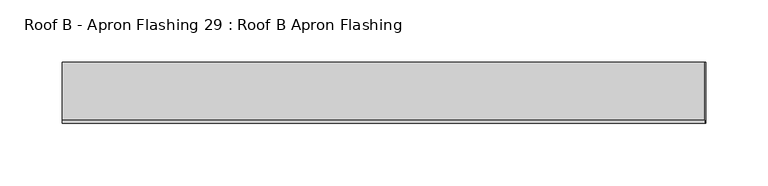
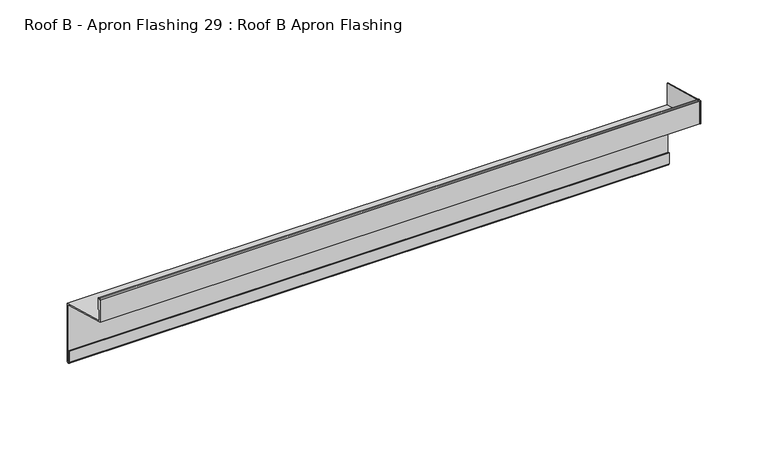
"""IFC4 building model written with IfcOpenShell, lengths in millimetres: proxy geometry, Roof B - Apron Flashing 29 : Roof B Apron Flashing."""

from ifc_helpers import new_model, si_unit, point, frame, frame_2d, origin, place, context, project, spatial, polyline, circle_curve, trimmed, segment, composite_curve, outline, extrude, source, transform, mapped, element, save


def roof_b_apron_flashing_29_roof_b_apron_flashing_f9d48720(model_context):
    return source(origin(), model_context, "Body", "SweptSolid", [
        extrude(outline(polyline([(-20660.2991572, -973.6339834), (-20660.2991572, -953.130654), (-20611.5455269, -966.1941499), (-20611.5455269, -986.6974792), (-20660.2991572, -973.6339834)])), frame((13194.5223206, 0.0, 0.0), z_axis=(1.0, 0.0, 0.0), x_axis=(0.0, 1.0, 0.0)), (0.0, 0.0, 1.0), 0.8428395),
        extrude(outline(composite_curve([segment(polyline([(-20611.5455269, -985.662203), (-20611.5455269, -1037.6563748)]), True, "CONTINUOUS"), segment(trimmed(circle_curve(frame_2d((-20613.0455269, -1037.6563748)), 1.5), [point((-20611.5455269, -1037.6563748))], [point((-20614.5455269, -1037.6563748))], False, "CARTESIAN"), True, "CONTINUOUS"), segment(polyline([(-20614.5455269, -1037.6563748), (-20614.5455269, -1027.6933761), (-20613.5455269, -1027.6933761), (-20613.5455269, -1037.6563748)]), True, "CONTINUOUS"), segment(trimmed(circle_curve(frame_2d((-20613.0455269, -1037.6563748)), 0.5), [point((-20613.5455269, -1037.6563748))], [point((-20612.5455269, -1037.6563748))], True, "CARTESIAN"), True, "CONTINUOUS"), segment(polyline([(-20612.5455269, -1037.6563748), (-20612.5455269, -986.42953), (-20660.2991572, -973.6339834), (-20660.2991572, -953.3538686)]), True, "CONTINUOUS"), segment(trimmed(circle_curve(frame_2d((-20659.0491572, -953.3538686)), 1.25), [point((-20660.2991572, -953.3538686))], [point((-20657.7991572, -953.3538686))], False, "CARTESIAN"), True, "CONTINUOUS"), segment(polyline([(-20657.7991572, -953.3538686), (-20657.7991572, -962.6360034)]), True, "CONTINUOUS"), segment(trimmed(circle_curve(frame_2d((-20658.2991572, -962.6360034)), 0.5), [point((-20657.7991572, -962.6360034))], [point((-20658.7991572, -962.6360034))], False, "CARTESIAN"), True, "CONTINUOUS"), segment(polyline([(-20658.7991572, -962.6360034), (-20658.7991572, -953.3538686)]), True, "CONTINUOUS"), segment(trimmed(circle_curve(frame_2d((-20659.0491572, -953.3538686)), 0.25), [point((-20658.7991572, -953.3538686))], [point((-20659.2991572, -953.3538686))], True, "CARTESIAN"), True, "CONTINUOUS"), segment(polyline([(-20659.2991572, -953.3538686), (-20659.2991572, -972.8666564), (-20611.5455269, -985.662203)]), True, "CONTINUOUS")], self_intersect=False)), frame((12679.5223206, 0.0, 0.0), z_axis=(1.0, 0.0, 0.0), x_axis=(0.0, 1.0, 0.0)), (0.0, 0.0, 1.0), 515.0),
    ])


if __name__ == "__main__":
    model = new_model("IFC4")
    model_context = context("Model", 3, world=origin())
    ifc_project = project(units=[si_unit("LENGTHUNIT", "METRE", prefix="MILLI")], contexts=[model_context])
    site = spatial("IfcSite", under=ifc_project)
    building = spatial("IfcBuilding", under=site)
    placement = place(None, origin())
    roof_b_apron_flashing_29_roof_b_apron_flashing_shape = roof_b_apron_flashing_29_roof_b_apron_flashing_f9d48720(model_context)
    element("IfcBuildingElementProxy", 1, Name="Roof B - Apron Flashing 29 : Roof B Apron Flashing", ObjectType="Roof B - Apron Flashing 29 : Roof B Apron Flashing", at=placement, inside=building, context=model_context, shape_type="MappedRepresentation", body=[
        mapped(roof_b_apron_flashing_29_roof_b_apron_flashing_shape, transform((0.0, 0.0, 0.0), x_axis=(1.0, 0.0, 0.0), y_axis=(0.0, 1.0, 0.0), z_axis=(0.0, 0.0, 1.0))),
    ])
    save(model, "model.ifc")
